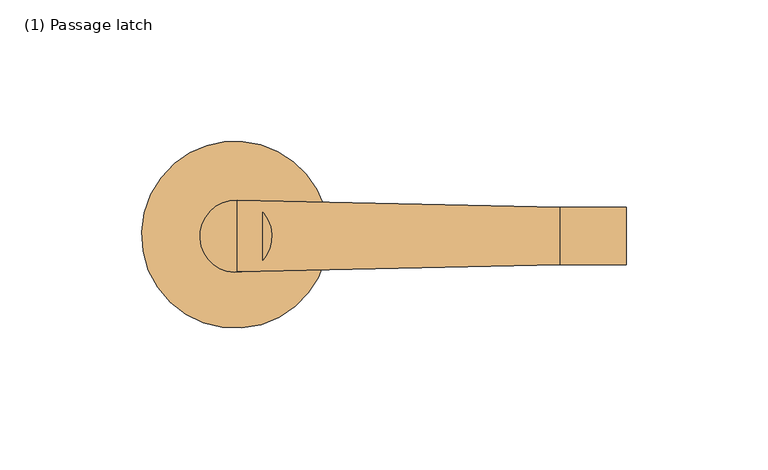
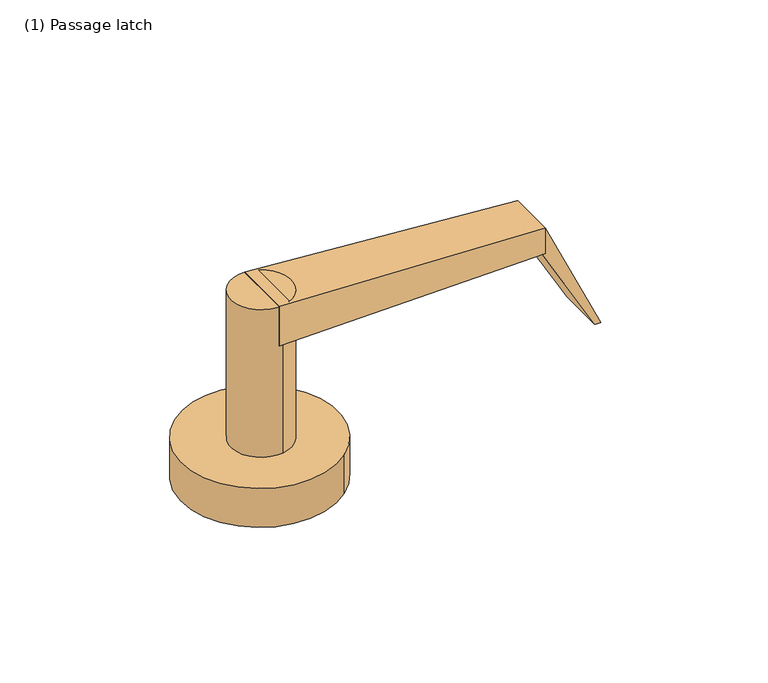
"""IFC4 building model written with IfcOpenShell, lengths in millimetres: door geometry, Door_Handle-Teknion-FHHSL-Schlage L Series(Child) : (1) Passage latch."""

from ifc_helpers import new_model, si_unit, point, frame, frame_2d, origin, origin_with_axes, place, context, project, spatial, polyline, circle_curve, trimmed, segment, composite_curve, outline, extrude, source, transform, mapped, element, save
from ifc_brep_helpers import plane_surface, spline_surface, advanced_brep


def door_1_passage_latch_5276f66d(model_context):
    return source(origin(), model_context, "Body", "SolidModel", [
        advanced_brep(
        [(113.0826159, -9.8661661, 77.089), (113.0826159, -9.8661661, 65.659), (113.0826159, 10.4783486, 65.659), (113.0826159, 10.4783486, 77.089), (-0.79375, -12.3783123, 83.439), (-0.79375, 13.0118705, 83.439), (-0.79375, 13.0089229, 65.659), (-0.79375, -12.378509, 65.659)],
        [
            (0, 1),
            (1, 2),
            (2, 3),
            (3, 0),
            (4, 5),
            (5, 6),
            (6, 7),
            (7, 4),
            (7, 1),
            (0, 4),
            (6, 2),
            (5, 3),
        ],
        [
            plane_surface(frame((113.0826159, 0.3060912, 71.374), z_axis=(1.0, 0.0, 0.0), x_axis=(0.0, -1.0, 0.0))),
            plane_surface(frame((-0.79375, 0.315993, 74.549), z_axis=(-1.0000000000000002, 0.0, 0.0), x_axis=(0.0, -1.1064247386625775e-05, -0.9999999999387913))),
            spline_surface(1, 1, [[(-0.79375, -12.3783123, 83.439), (113.0826159, -9.8661661, 77.089)], [(-0.79375, -12.378509, 65.659), (113.0826159, -9.8661661, 65.659)]], [2, 2], [2, 2], [0.0, 1.0], [0.0, 1.0]),
            plane_surface(frame((-0.79375, 0.315207, 65.659), z_axis=(0.0, 0.0, -1.0), x_axis=(0.0, 1.0, 0.0))),
            spline_surface(1, 1, [[(-0.79375, 13.0089229, 65.659), (113.0826159, 10.4783486, 65.659)], [(-0.79375, 13.0118705, 83.439), (113.0826159, 10.4783486, 77.089)]], [2, 2], [2, 2], [0.0, 1.0], [0.0, 1.0]),
            plane_surface(frame((-0.79375, 0.3167791, 83.439), z_axis=(0.05567573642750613, 0.0, 0.9984489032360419), x_axis=(0.0, -1.0, 0.0))),
        ],
        [
            (0, [[1, 2, 3, 4]]),
            (1, [[5, 6, 7, 8]]),
            (2, [[-8, 9, -1, 10]]),
            (3, [[-7, 11, -2, -9]]),
            (4, [[-6, 12, -3, -11]]),
            (5, [[-5, -10, -4, -12]]),
        ],
    ),
        extrude(outline(composite_curve([segment(trimmed(circle_curve(frame_2d((-1.3064074, 0.1984375)), 12.7), [point((-3.427265, 12.7200973))], [point((0.8144502, -12.3232223))], False, "CARTESIAN"), True, "CONTINUOUS"), segment(trimmed(circle_curve(frame_2d((-1.3064074, 0.1984375)), 12.7), [point((0.8144502, -12.3232223))], [point((-3.427265, 12.7200973))], False, "CARTESIAN"), True, "CONTINUOUS")], self_intersect=False)), frame((0.0, 0.0, 17.399), z_axis=(0.0, 0.0, 1.0), x_axis=(1.0, 0.0, 0.0)), (0.0, 0.0, 1.0), 66.04),
        extrude(outline(composite_curve([segment(trimmed(circle_curve(frame_2d((-1.6178614, 0.7745191)), 33.02), [point((-22.9508261, 25.9781898))], [point((19.7151032, -24.4291516))], False, "CARTESIAN"), True, "CONTINUOUS"), segment(trimmed(circle_curve(frame_2d((-1.6178614, 0.7745191)), 33.02), [point((19.7151032, -24.4291516))], [point((-22.9508261, 25.9781898))], False, "CARTESIAN"), True, "CONTINUOUS")], self_intersect=False)), origin_with_axes(), (0.0, 0.0, 1.0), 17.399),
        extrude(outline(polyline([(77.089, 113.0826159), (65.659, 113.0826159), (65.659, 111.7545147), (26.5862634, 134.0924288), (26.5862634, 136.6324288), (77.089, 113.0826159)])), frame((0.0, -9.8416514, 0.0), z_axis=(0.0, 1.0, 0.0), x_axis=(0.0, 0.0, 1.0)), (0.0, 0.0, 1.0), 20.32),
    ])


if __name__ == "__main__":
    model = new_model("IFC4")
    model_context = context("Model", 3, world=origin())
    ifc_project = project(units=[si_unit("LENGTHUNIT", "METRE", prefix="MILLI")], contexts=[model_context])
    site = spatial("IfcSite", under=ifc_project)
    building = spatial("IfcBuilding", under=site)
    placement = place(None, origin())
    door_1_passage_latch_shape = door_1_passage_latch_5276f66d(model_context)
    element("IfcDoor", 1, ObjectType="Door_Handle-Teknion-FHHSL-Schlage L Series(Child) : (1) Passage latch", at=placement, inside=building, context=model_context, shape_type="MappedRepresentation", body=[
        mapped(door_1_passage_latch_shape, transform((0.0, 0.0, 0.0), x_axis=(1.0, 0.0, 0.0), y_axis=(0.0, 1.0, 0.0), z_axis=(0.0, 0.0, 1.0))),
    ])
    save(model, "model.ifc")
